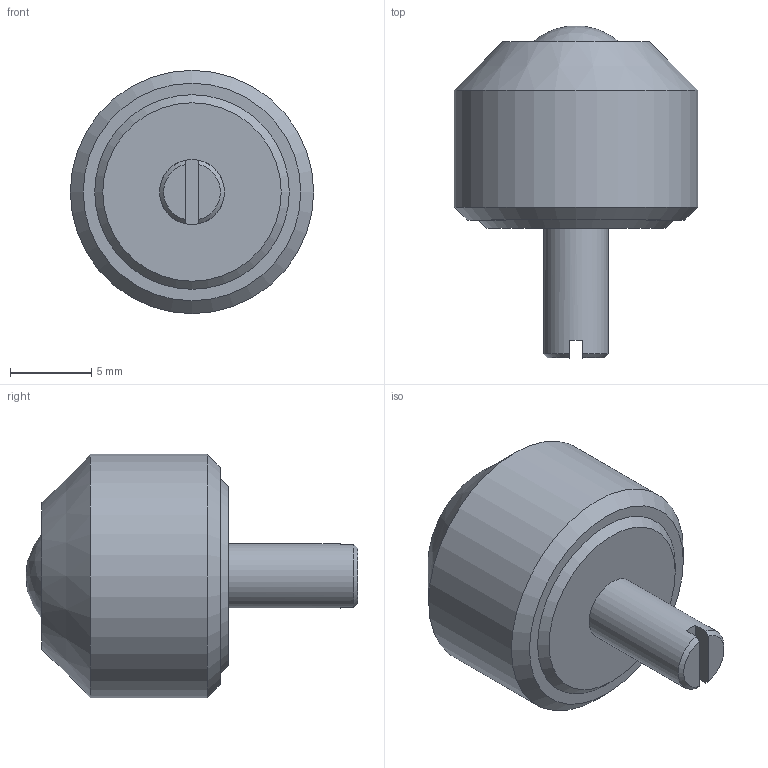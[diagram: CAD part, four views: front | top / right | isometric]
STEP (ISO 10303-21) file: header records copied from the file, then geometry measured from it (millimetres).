
FILE_DESCRIPTION(/* description */ (''),/* implementation_level */ '2;1');
FILE_NAME(/* name */ 'Z:\34-Tei\web 3Dデータ\16-IS-SNM型\IS-08SNM.stp',/* time_stamp */ '2015-01-09T15:33:57+09:00',/* author */ ('yamaki'),/* organization */ (''),/* preprocessor_version */ 'ST-DEVELOPER v15.6',/* originating_system */ 'Autodesk Inventor 2015',/* authorisation */ '');
FILE_SCHEMA (('AUTOMOTIVE_DESIGN { 1 0 10303 214 3 1 1 }'));
Length unit declared in the file: millimetre
Products named in the file (1): IS-08SNM
Bounding box: 15 x 20.47 x 15 mm (x, y, z)
Volume: 1908.6 mm3; surface area: 871.6 mm2
Topology: 1 solids, 1 shells, 16 faces, 32 edges, 21 vertices
Faces by surface type: plane 8, cone 5, cylinder 2, sphere 1
Full cylindrical faces by diameter (mm): 4 x1, 15 x1
Entity records: 408 total; most frequent: CARTESIAN_POINT 71, DIRECTION 70, ORIENTED_EDGE 52, AXIS2_PLACEMENT_3D 31, EDGE_CURVE 26, EDGE_LOOP 24, VERTEX_POINT 20, FACE_OUTER_BOUND 16
